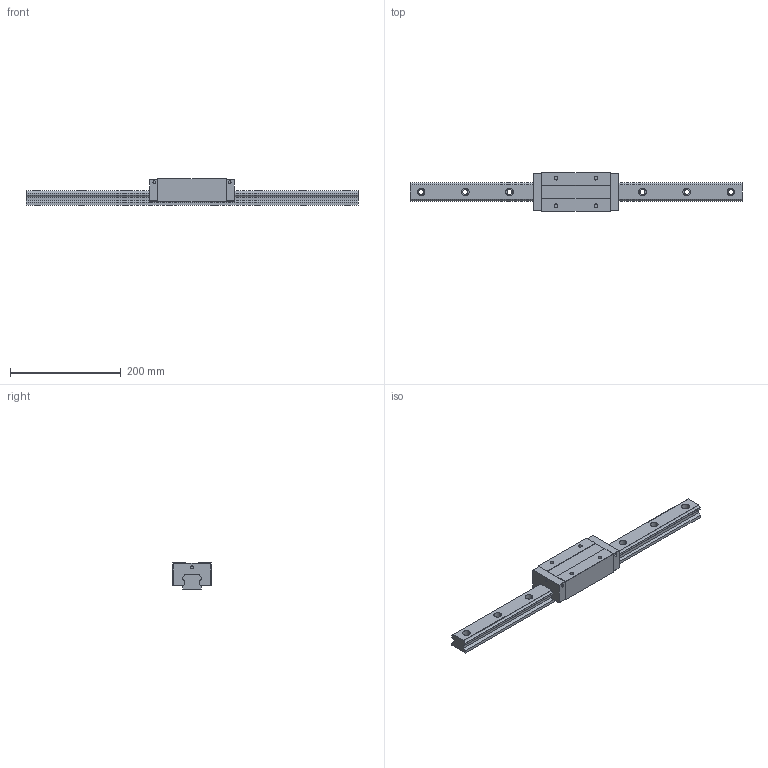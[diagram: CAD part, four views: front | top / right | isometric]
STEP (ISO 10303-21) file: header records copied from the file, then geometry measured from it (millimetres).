
FILE_DESCRIPTION (( 'STEP AP203' ), '1' );
FILE_NAME ('TRS35VE-XN.STEP', '2024-06-12T08:37:10', ( '' ), ( '' ), 'SwSTEP 2.0', 'SolidWorks 2022', '' );
FILE_SCHEMA (( 'CONFIG_CONTROL_DESIGN' ));
Length unit declared in the file: millimetre
Products named in the file (1): TRS35VE-XN
Bounding box: 600 x 70 x 48 mm (x, y, z)
Volume: 789471.6 mm3; surface area: 128347.5 mm2
Topology: 2 solids, 2 shells, 178 faces, 464 edges, 308 vertices
Faces by surface type: plane 90, cylinder 88
Entity records: 5619 total; most frequent: DIRECTION 998, CARTESIAN_POINT 951, ORIENTED_EDGE 928, EDGE_CURVE 464, AXIS2_PLACEMENT_3D 355, VERTEX_POINT 308, VECTOR 288, LINE 288
